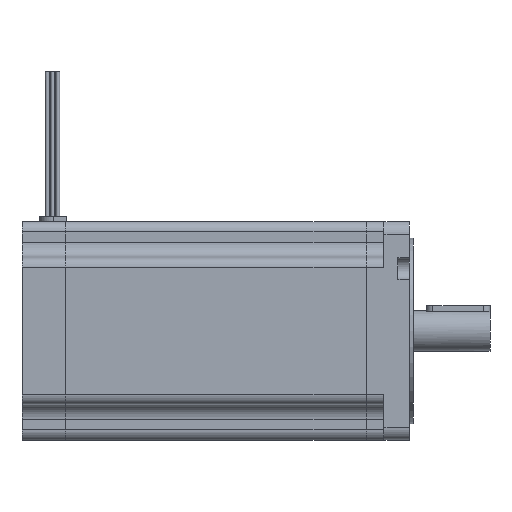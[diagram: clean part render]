
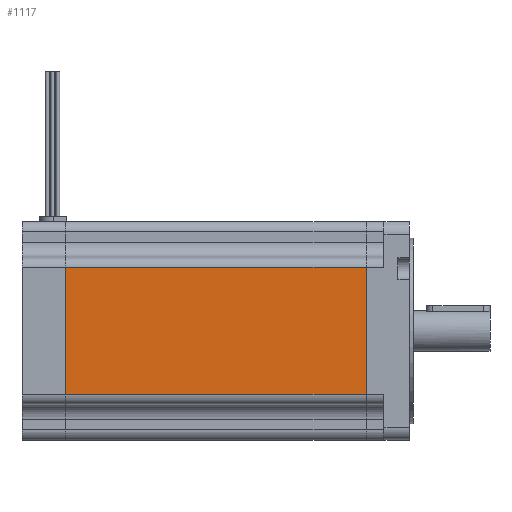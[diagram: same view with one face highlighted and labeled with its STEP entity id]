
A CAD part, left-side view. The second image highlights one B-rep face of the part: STEP entity #1117.
In plain terms, the highlighted planar face has unit normal (-1, 0, 0).
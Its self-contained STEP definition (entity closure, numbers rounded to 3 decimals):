
#1117=ADVANCED_FACE('',(#1411),#1300,.F.);
#1300=PLANE('',#4206);
#1411=FACE_OUTER_BOUND('',#1561,.T.);
#1561=EDGE_LOOP('',(#1850,#1851,#1852,#1853));
#1850=ORIENTED_EDGE('',*,*,#3121,.T.);
#1851=ORIENTED_EDGE('',*,*,#3122,.F.);
#1852=ORIENTED_EDGE('',*,*,#3123,.F.);
#1853=ORIENTED_EDGE('',*,*,#3124,.T.);
#2777=VERTEX_POINT('',#5618);
#2778=VERTEX_POINT('',#5619);
#2779=VERTEX_POINT('',#5621);
#2780=VERTEX_POINT('',#5623);
#3121=EDGE_CURVE('',#2777,#2778,#3593,.T.);
#3122=EDGE_CURVE('',#2779,#2778,#3594,.T.);
#3123=EDGE_CURVE('',#2780,#2779,#3595,.T.);
#3124=EDGE_CURVE('',#2780,#2777,#3596,.T.);
#3593=LINE('',#5617,#3896);
#3594=LINE('',#5620,#3897);
#3595=LINE('',#5622,#3898);
#3596=LINE('',#5624,#3899);
#3896=VECTOR('',#4606,1.);
#3897=VECTOR('',#4607,1.);
#3898=VECTOR('',#4608,1.);
#3899=VECTOR('',#4609,1.);
#4206=AXIS2_PLACEMENT_3D('',#5625,#4610,#4611);
#4606=DIRECTION('',(0.,0.,-1.));
#4607=DIRECTION('',(0.,1.,0.));
#4608=DIRECTION('',(0.,0.,-1.));
#4609=DIRECTION('',(0.,1.,0.));
#4610=DIRECTION('',(1.,0.,0.));
#4611=DIRECTION('',(0.,0.,-1.));
#5617=CARTESIAN_POINT('',(-43.,0.,25.));
#5618=CARTESIAN_POINT('',(-43.,0.,25.));
#5619=CARTESIAN_POINT('',(-43.,0.,-25.));
#5620=CARTESIAN_POINT('',(-43.,-118.5,-25.));
#5621=CARTESIAN_POINT('',(-43.,-118.5,-25.));
#5622=CARTESIAN_POINT('',(-43.,-118.5,25.));
#5623=CARTESIAN_POINT('',(-43.,-118.5,25.));
#5624=CARTESIAN_POINT('',(-43.,-118.5,25.));
#5625=CARTESIAN_POINT('',(-43.,-118.5,25.));
